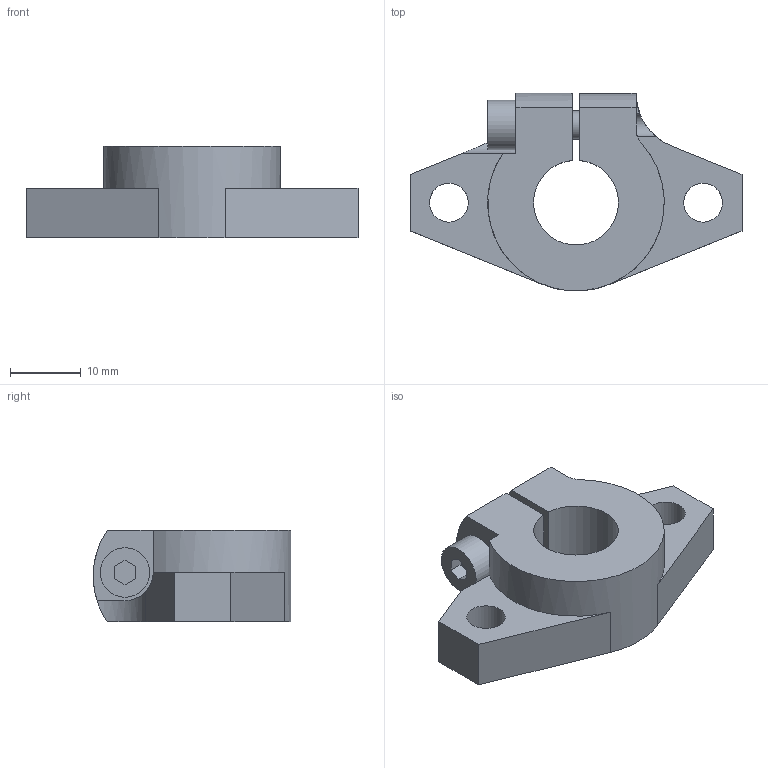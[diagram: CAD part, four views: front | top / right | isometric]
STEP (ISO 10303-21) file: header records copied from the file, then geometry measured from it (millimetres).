
FILE_DESCRIPTION(('STEP AP203'),'1');
FILE_NAME('//192.168.1.1/share/s-4 技術開発/s-4-14_個人別フォルダ/橋詰/09_CAD_DATA/3D/HP用/3Ｄモデル/SNF/SNF-12A.step','2021-09-16T23:46:41',(' '),(' '),'Spatial InterOp 3D',' ',' ');
FILE_SCHEMA(('CONFIG_CONTROL_DESIGN'));
Length unit declared in the file: millimetre
Products named in the file (2): 1; 2
Bounding box: 47 x 27.97 x 13 mm (x, y, z)
Volume: 7620.5 mm3; surface area: 4261.5 mm2
Topology: 2 solids, 2 shells, 43 faces, 114 edges, 76 vertices
Faces by surface type: plane 27, cylinder 15, cone 1
Full cylindrical faces by diameter (mm): 3.3 x1, 4 x2, 4.5 x1, 5.5 x2, 7 x1
Entity records: 1444 total; most frequent: CARTESIAN_POINT 307, DIRECTION 218, ORIENTED_EDGE 204, EDGE_CURVE 102, AXIS2_PLACEMENT_3D 77, VERTEX_POINT 72, LINE 64, VECTOR 64
